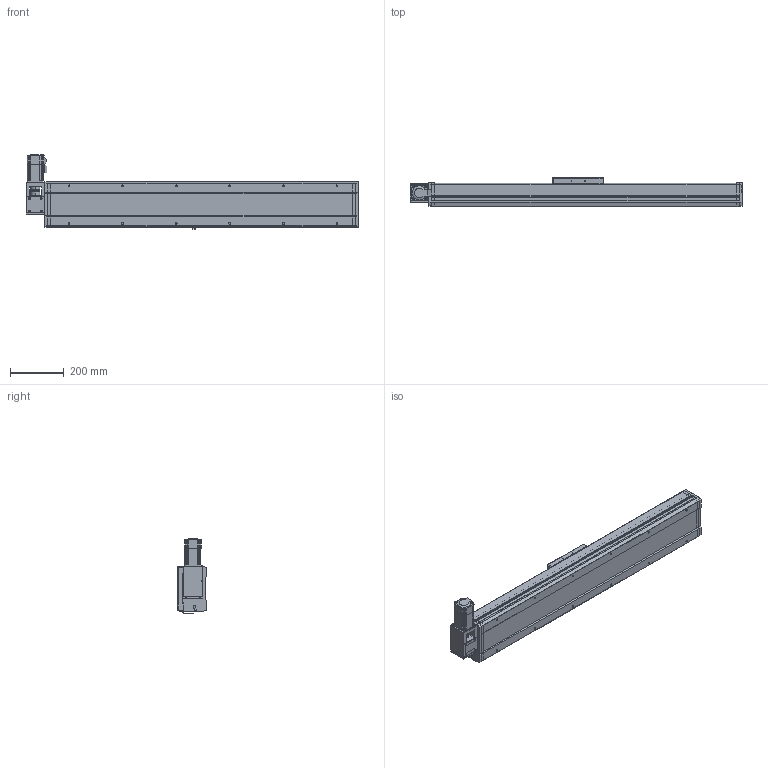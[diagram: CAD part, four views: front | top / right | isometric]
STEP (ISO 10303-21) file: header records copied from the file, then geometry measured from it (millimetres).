
FILE_DESCRIPTION((''),'2;1');
FILE_NAME('170-TZJ3FL-S850_ASM','2015-12-04T',('lenovo'),(''),'PRO/ENGINEER BY PARAMETRIC TECHNOLOGY CORPORATION, 2010280','PRO/ENGINEER BY PARAMETRIC TECHNOLOGY CORPORATION, 2010280','');
FILE_SCHEMA(('CONFIG_CONTROL_DESIGN'));
Length unit declared in the file: millimetre
Products named in the file (5): 170-TJFL-DZ; 170-HK; 170-HDB-01; 170-TZJ3FL-DJZ; 170-TZJ3FL-S850_ASM
Assembly tree (4 placements, depth 2):
  170-TZJ3FL-S850_ASM
    170-TJFL-DZ
    170-HK
    170-HDB-01
    170-TZJ3FL-DJZ
Bounding box: 1239 x 107 x 278.5 mm (x, y, z)
Volume: 9387049.9 mm3; surface area: 1440920.7 mm2
Topology: 6 solids, 30 shells, 1480 faces, 4021 edges, 2681 vertices
Faces by surface type: plane 792, cylinder 547, cone 113, torus 28
Entity records: 47419 total; most frequent: CARTESIAN_POINT 8465, DIRECTION 8324, ORIENTED_EDGE 8042, EDGE_CURVE 4021, AXIS2_PLACEMENT_3D 2856, VERTEX_POINT 2681, VECTOR 2612, LINE 2612
